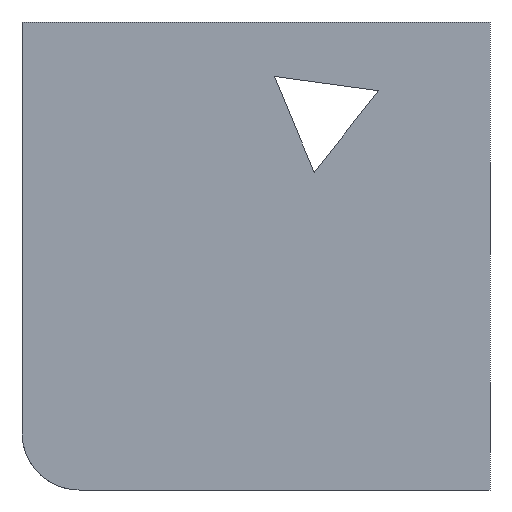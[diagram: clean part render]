
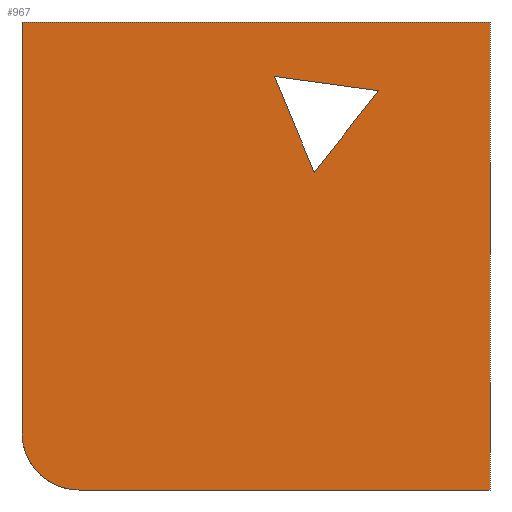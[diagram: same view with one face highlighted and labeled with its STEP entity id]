
A CAD part, front view. The second image highlights one B-rep face of the part: STEP entity #967.
In plain terms, the highlighted planar face has unit normal (0, -1, 0).
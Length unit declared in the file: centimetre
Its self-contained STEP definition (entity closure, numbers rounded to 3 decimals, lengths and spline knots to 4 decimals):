
#16 = EDGE_LOOP ( 'NONE', ( #351, #1190, #793 ) ) ;
#22 = VECTOR ( 'NONE', #656, 100. ) ;
#25 = PLANE ( 'NONE',  #160 ) ;
#28 = VERTEX_POINT ( 'NONE', #994 ) ;
#64 = VERTEX_POINT ( 'NONE', #1091 ) ;
#72 = DIRECTION ( 'NONE',  ( 1., 0., 0. ) ) ;
#111 = VECTOR ( 'NONE', #814, 100. ) ;
#155 = DIRECTION ( 'NONE',  ( 0., 1., 0. ) ) ;
#157 = VERTEX_POINT ( 'NONE', #810 ) ;
#160 = AXIS2_PLACEMENT_3D ( 'NONE', #1011, #155, #1123 ) ;
#208 = CARTESIAN_POINT ( 'NONE',  ( 624.3413, 0., 678.9759 ) ) ;
#212 = ORIENTED_EDGE ( 'NONE', *, *, #1060, .F. ) ;
#228 = VECTOR ( 'NONE', #1185, 100. ) ;
#249 = FACE_OUTER_BOUND ( 'NONE', #654, .T. ) ;
#261 = VERTEX_POINT ( 'NONE', #1254 ) ;
#351 = ORIENTED_EDGE ( 'NONE', *, *, #401, .T. ) ;
#381 = EDGE_CURVE ( 'NONE', #468, #157, #447, .T. ) ;
#384 = VECTOR ( 'NONE', #72, 100. ) ;
#398 = CARTESIAN_POINT ( 'NONE',  ( 0., 0., 0. ) ) ;
#401 = EDGE_CURVE ( 'NONE', #28, #1095, #1197, .T. ) ;
#444 = LINE ( 'NONE', #552, #228 ) ;
#447 = LINE ( 'NONE', #957, #22 ) ;
#460 = ORIENTED_EDGE ( 'NONE', *, *, #1222, .T. ) ;
#468 = VERTEX_POINT ( 'NONE', #861 ) ;
#479 = VECTOR ( 'NONE', #1271, 100. ) ;
#528 = CARTESIAN_POINT ( 'NONE',  ( 122.0158, 0., 122.0158 ) ) ;
#540 = AXIS2_PLACEMENT_3D ( 'NONE', #528, #950, #1388 ) ;
#541 = EDGE_CURVE ( 'NONE', #261, #28, #444, .T. ) ;
#549 = EDGE_CURVE ( 'NONE', #64, #674, #1012, .T. ) ;
#552 = CARTESIAN_POINT ( 'NONE',  ( 762.0753, 0., 853.1671 ) ) ;
#600 = CARTESIAN_POINT ( 'NONE',  ( 122.0158, 0., 0. ) ) ;
#629 = CARTESIAN_POINT ( 'NONE',  ( 0., 0., 1000. ) ) ;
#642 = VECTOR ( 'NONE', #841, 100. ) ;
#654 = EDGE_LOOP ( 'NONE', ( #460, #800, #973, #1386, #212 ) ) ;
#656 = DIRECTION ( 'NONE',  ( 0., 0., -1. ) ) ;
#674 = VERTEX_POINT ( 'NONE', #600 ) ;
#703 = EDGE_CURVE ( 'NONE', #1095, #261, #1131, .T. ) ;
#707 = CARTESIAN_POINT ( 'NONE',  ( 539.4924, 0., 883.7004 ) ) ;
#723 = LINE ( 'NONE', #826, #384 ) ;
#735 = VECTOR ( 'NONE', #1045, 100. ) ;
#778 = FACE_BOUND ( 'NONE', #16, .T. ) ;
#793 = ORIENTED_EDGE ( 'NONE', *, *, #541, .T. ) ;
#800 = ORIENTED_EDGE ( 'NONE', *, *, #549, .T. ) ;
#810 = CARTESIAN_POINT ( 'NONE',  ( 1000., 0., 0. ) ) ;
#814 = DIRECTION ( 'NONE',  ( -0.383, 0., 0.924 ) ) ;
#826 = CARTESIAN_POINT ( 'NONE',  ( 0., 0., 1000. ) ) ;
#841 = DIRECTION ( 'NONE',  ( 0., 0., -1. ) ) ;
#847 = LINE ( 'NONE', #629, #642 ) ;
#861 = CARTESIAN_POINT ( 'NONE',  ( 1000., 0., 1000. ) ) ;
#950 = DIRECTION ( 'NONE',  ( 0., -1., 0. ) ) ;
#957 = CARTESIAN_POINT ( 'NONE',  ( 1000., 0., 1000. ) ) ;
#967 = ADVANCED_FACE ( 'NONE', ( #778, #249 ), #25, .F. ) ;
#973 = ORIENTED_EDGE ( 'NONE', *, *, #1140, .T. ) ;
#994 = CARTESIAN_POINT ( 'NONE',  ( 762.0753, 0., 853.1671 ) ) ;
#1011 = CARTESIAN_POINT ( 'NONE',  ( 0., 0., 1000. ) ) ;
#1012 = CIRCLE ( 'NONE', #540, 122.0158 ) ;
#1045 = DIRECTION ( 'NONE',  ( 1., 0., 0. ) ) ;
#1060 = EDGE_CURVE ( 'NONE', #1377, #468, #723, .T. ) ;
#1085 = CARTESIAN_POINT ( 'NONE',  ( 0., 0., 1000. ) ) ;
#1091 = CARTESIAN_POINT ( 'NONE',  ( 0., 0., 122.0158 ) ) ;
#1095 = VERTEX_POINT ( 'NONE', #1134 ) ;
#1123 = DIRECTION ( 'NONE',  ( 0., 0., 1. ) ) ;
#1131 = LINE ( 'NONE', #707, #111 ) ;
#1134 = CARTESIAN_POINT ( 'NONE',  ( 624.3413, 0., 678.9759 ) ) ;
#1140 = EDGE_CURVE ( 'NONE', #674, #157, #1366, .T. ) ;
#1185 = DIRECTION ( 'NONE',  ( 0.991, 0., -0.136 ) ) ;
#1190 = ORIENTED_EDGE ( 'NONE', *, *, #703, .T. ) ;
#1197 = LINE ( 'NONE', #208, #479 ) ;
#1222 = EDGE_CURVE ( 'NONE', #1377, #64, #847, .T. ) ;
#1254 = CARTESIAN_POINT ( 'NONE',  ( 539.4924, 0., 883.7004 ) ) ;
#1271 = DIRECTION ( 'NONE',  ( -0.62, 0., -0.784 ) ) ;
#1366 = LINE ( 'NONE', #398, #735 ) ;
#1377 = VERTEX_POINT ( 'NONE', #1085 ) ;
#1386 = ORIENTED_EDGE ( 'NONE', *, *, #381, .F. ) ;
#1388 = DIRECTION ( 'NONE',  ( 0., 0., 1. ) ) ;
